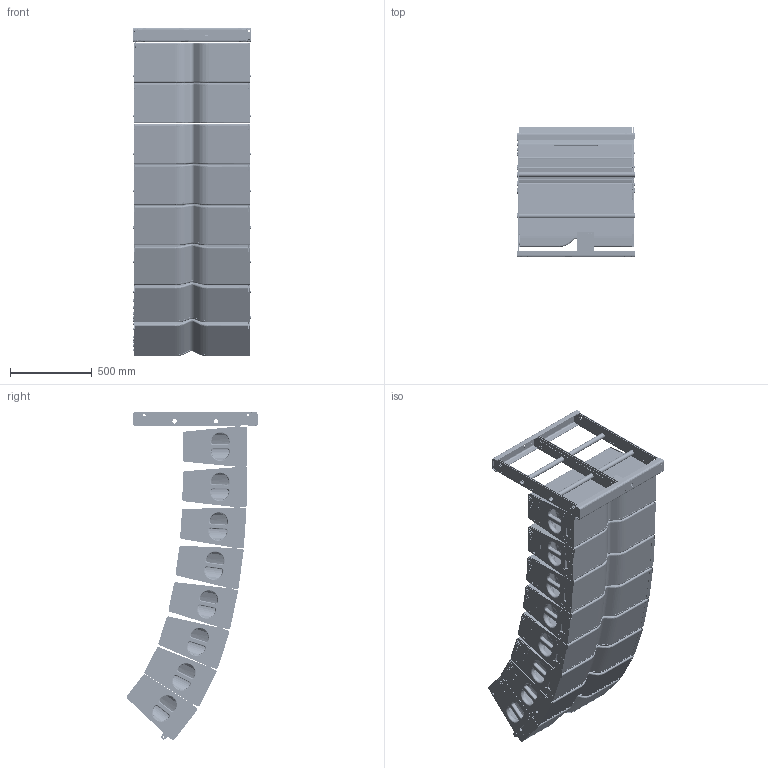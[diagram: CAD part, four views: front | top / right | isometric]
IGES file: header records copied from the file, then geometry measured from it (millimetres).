
Global section: file name: LA28 8 Box ARRAY v2; native system: unknown; preprocessor: unknown; author: unknown; organization: unknown; date: 20230122.000429; units: inch
Bounding box: 726.76 x 802.83 x 2012.1 mm (x, y, z)
Volume: 463060274.5 mm3; surface area: 11487484.7 mm2
Topology: 23 solids, 23 shells, 3969 faces, 10639 edges, 7148 vertices
Faces by surface type: bspline 3969
